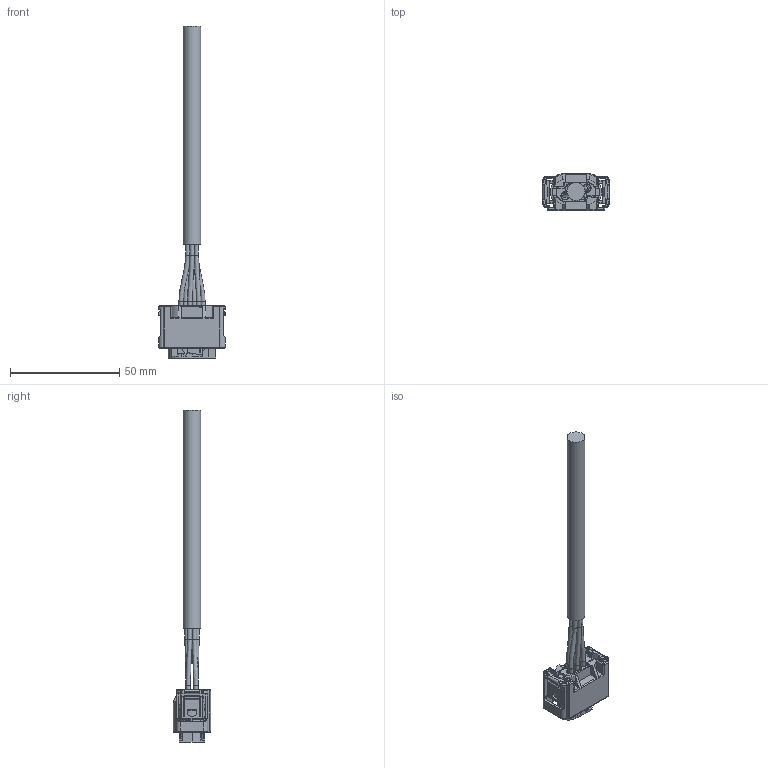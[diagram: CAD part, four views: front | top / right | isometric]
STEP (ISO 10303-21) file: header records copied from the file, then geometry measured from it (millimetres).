
FILE_DESCRIPTION(/* description */ (''),/* implementation_level */ '2;1');
FILE_NAME(/* name */ 'L0FD.0.B.stp',/* time_stamp */ '2020-02-11T15:54:36+01:00',/* author */ (''),/* organization */ (''),/* preprocessor_version */ 'ST-DEVELOPER v16',/* originating_system */ 'SIEMENS PLM Software NX 11.0',/* authorisation */ '');
FILE_SCHEMA (('AP203_CONFIGURATION_CONTROLLED_3D_DESIGN_OF_MECHANICAL_PARTS_AND_ASSEMBLIES_MIM_LF { 1 0 10303 403 2 1 2}'));
Length unit declared in the file: millimetre
Products named in the file (1): hi2n3640BBD0ix7u
Bounding box: 30.4 x 17 x 152 mm (x, y, z)
Volume: 12186.8 mm3; surface area: 10588.7 mm2
Topology: 1 solids, 1 shells, 805 faces, 2179 edges, 1372 vertices
Faces by surface type: plane 535, cylinder 197, torus 35, sphere 20, bspline 11, cone 7
Full cylindrical faces by diameter (mm): 2 x12, 8.2 x1
Entity records: 26116 total; most frequent: CARTESIAN_POINT 5583, ORIENTED_EDGE 4320, DIRECTION 4177, EDGE_CURVE 2160, LINE 1625, VECTOR 1625, VERTEX_POINT 1372, AXIS2_PLACEMENT_3D 1276
